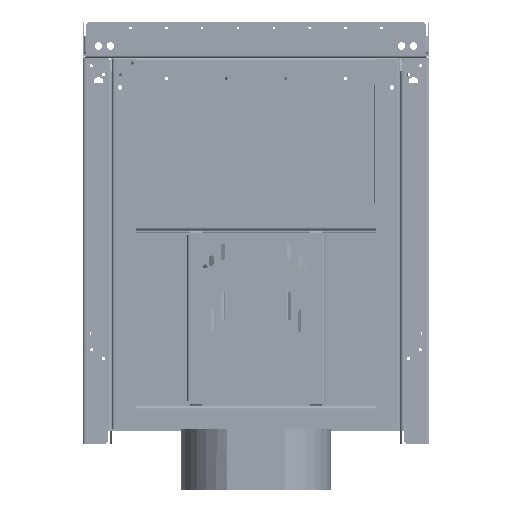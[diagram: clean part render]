
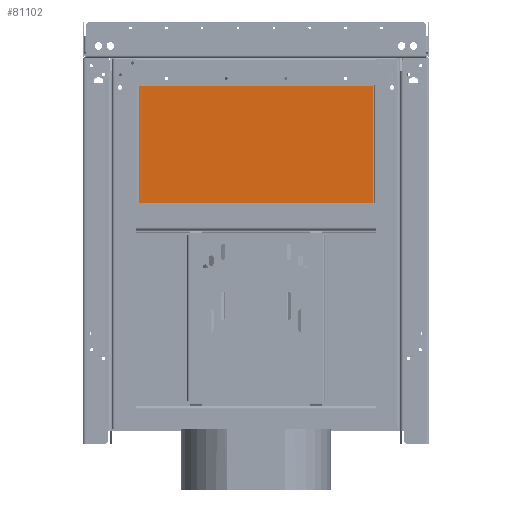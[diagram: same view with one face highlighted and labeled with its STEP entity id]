
A CAD part, front view. The second image highlights one B-rep face of the part: STEP entity #81102.
In plain terms, the highlighted planar face has unit normal (0, -1, 0) as drawn and (0, 1, 0) by its records, which use the part's own axes.
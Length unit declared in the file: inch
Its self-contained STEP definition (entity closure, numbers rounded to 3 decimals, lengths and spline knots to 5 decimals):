
#80975=DIRECTION('',(1.,0.,0.));
#80976=VECTOR('',#80975,9.7665);
#80977=CARTESIAN_POINT('',(-4.88325,1.93,9.82));
#80978=LINE('',#80977,#80976);
#80983=DIRECTION('',(0.,0.,1.));
#80984=VECTOR('',#80983,19.64);
#80985=CARTESIAN_POINT('',(-4.88325,1.93,-9.82));
#80986=LINE('',#80985,#80984);
#80991=DIRECTION('',(-1.,0.,0.));
#80992=VECTOR('',#80991,9.7665);
#80993=CARTESIAN_POINT('',(4.88325,1.93,-9.82));
#80994=LINE('',#80993,#80992);
#80999=DIRECTION('',(0.,0.,-1.));
#81000=VECTOR('',#80999,19.64);
#81001=CARTESIAN_POINT('',(4.88325,1.93,9.82));
#81002=LINE('',#81001,#81000);
#81011=CARTESIAN_POINT('',(-4.88325,1.93,9.82));
#81012=VERTEX_POINT('',#81011);
#81013=CARTESIAN_POINT('',(4.88325,1.93,9.82));
#81014=VERTEX_POINT('',#81013);
#81015=CARTESIAN_POINT('',(-4.88325,1.93,-9.82));
#81016=VERTEX_POINT('',#81015);
#81017=CARTESIAN_POINT('',(4.88325,1.93,-9.82));
#81018=VERTEX_POINT('',#81017);
#81091=CARTESIAN_POINT('',(0.,1.93,0.));
#81092=DIRECTION('',(0.,1.,0.));
#81093=DIRECTION('',(1.,0.,0.));
#81094=AXIS2_PLACEMENT_3D('',#81091,#81092,#81093);
#81095=PLANE('',#81094);
#81096=ORIENTED_EDGE('',*,*,#81043,.F.);
#81097=ORIENTED_EDGE('',*,*,#81058,.F.);
#81098=ORIENTED_EDGE('',*,*,#81072,.F.);
#81099=ORIENTED_EDGE('',*,*,#81085,.F.);
#81100=EDGE_LOOP('',(#81096,#81097,#81098,#81099));
#81101=FACE_OUTER_BOUND('',#81100,.F.);
#81102=ADVANCED_FACE('',(#81101),#81095,.T.);
#81043=EDGE_CURVE('',#81012,#81014,#80978,.T.);
#81058=EDGE_CURVE('',#81016,#81012,#80986,.T.);
#81072=EDGE_CURVE('',#81018,#81016,#80994,.T.);
#81085=EDGE_CURVE('',#81014,#81018,#81002,.T.);
